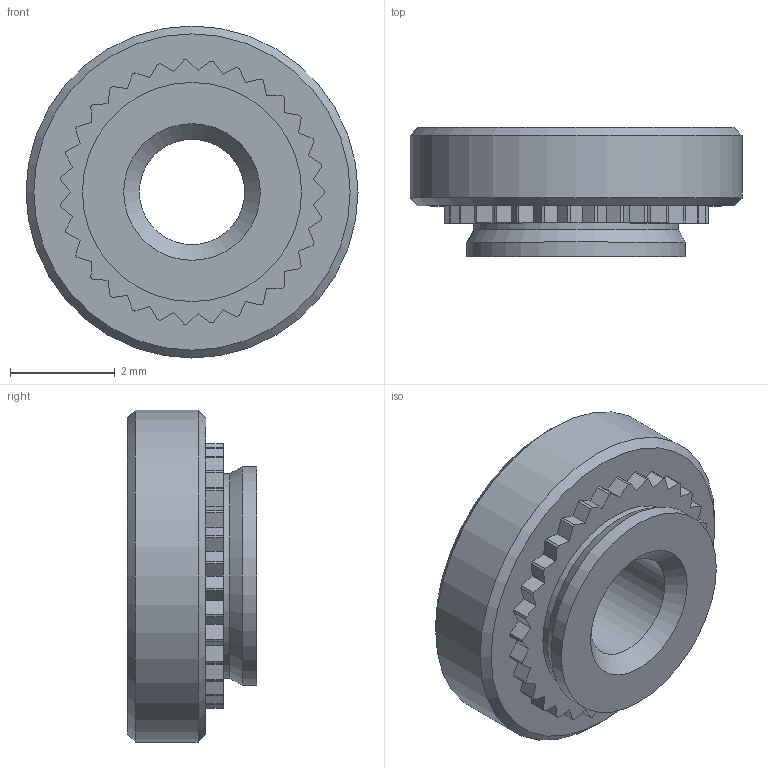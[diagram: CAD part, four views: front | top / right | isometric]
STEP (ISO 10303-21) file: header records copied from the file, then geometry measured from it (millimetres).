
FILE_DESCRIPTION(/* description */ (''),/* implementation_level */ '2;1');
FILE_NAME(/* name */ 'C:\Users\keval.kumar\Desktop\Fastit\Clinch nut\M2.5\Clinch Nut_M2.5_1.stp',/* time_stamp */ '2024-03-14T09:28:51+06:00',/* author */ ('keval.kumar'),/* organization */ (''),/* preprocessor_version */ 'ST-DEVELOPER v18.1',/* originating_system */ 'Autodesk Inventor 2022',/* authorisation */ '');
FILE_SCHEMA (('AUTOMOTIVE_DESIGN { 1 0 10303 214 3 1 1 }'));
Length unit declared in the file: millimetre
Products named in the file (1): Clinch Nut_M3_1
Bounding box: 6.35 x 2.47 x 6.35 mm (x, y, z)
Volume: 53.1 mm3; surface area: 114.1 mm2
Topology: 1 solids, 1 shells, 106 faces, 303 edges, 201 vertices
Faces by surface type: plane 66, cylinder 35, cone 5
Full cylindrical faces by diameter (mm): 2.013 x1, 3.91 x1, 4.19 x1, 6.35 x1
Entity records: 3507 total; most frequent: CARTESIAN_POINT 611, ORIENTED_EDGE 606, DIRECTION 594, EDGE_CURVE 303, LINE 226, VECTOR 226, VERTEX_POINT 201, AXIS2_PLACEMENT_3D 184
